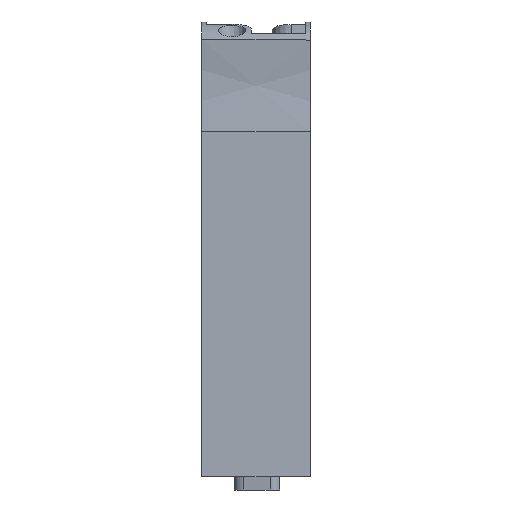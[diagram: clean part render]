
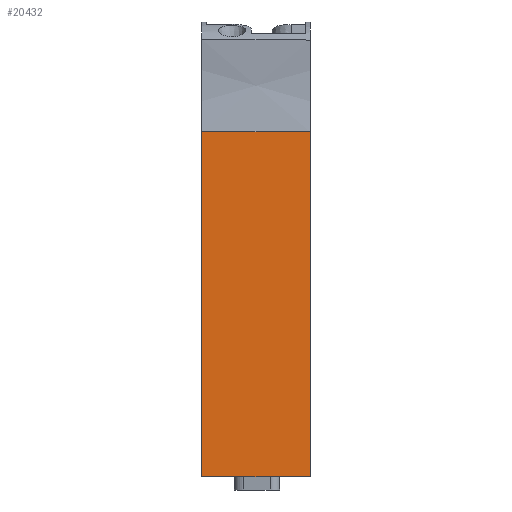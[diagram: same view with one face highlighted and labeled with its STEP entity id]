
A CAD part, front view. The second image highlights one B-rep face of the part: STEP entity #20432.
In plain terms, the highlighted planar face has unit normal (-0.009, -1, 0).
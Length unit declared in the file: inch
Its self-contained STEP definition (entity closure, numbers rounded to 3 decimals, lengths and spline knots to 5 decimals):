
#2085=DIRECTION('',(0.,0.,-1.));
#2086=VECTOR('',#2085,2.51253);
#2087=CARTESIAN_POINT('',(0.788,-2.06535,2.51253));
#2088=LINE('',#2087,#2086);
#4427=DIRECTION('',(1.,-0.009,0.));
#4428=VECTOR('',#4427,0.78803);
#4429=CARTESIAN_POINT('',(0.,-2.05847,0.));
#4430=LINE('',#4429,#4428);
#4803=DIRECTION('',(0.,0.,-1.));
#4804=VECTOR('',#4803,2.51197);
#4805=CARTESIAN_POINT('',(0.,-2.05847,2.51197));
#4806=LINE('',#4805,#4804);
#5027=CARTESIAN_POINT('',(0.,-2.05847,2.51197));
#5028=CARTESIAN_POINT('',(0.08773,-2.05924,
2.51203));
#5029=CARTESIAN_POINT('',(0.26309,-2.06077,
2.51216));
#5030=CARTESIAN_POINT('',(0.52575,-2.06306,
2.51234));
#5031=CARTESIAN_POINT('',(0.70062,-2.06459,
2.51247));
#5032=CARTESIAN_POINT('',(0.788,-2.06535,2.51253));
#12681=CARTESIAN_POINT('',(0.,-2.05847,0.));
#12682=CARTESIAN_POINT('',(0.788,-2.06535,0.));
#12683=VERTEX_POINT('',#12681);
#12684=VERTEX_POINT('',#12682);
#12691=VERTEX_POINT('',#5027);
#12692=VERTEX_POINT('',#5032);
#20421=CARTESIAN_POINT('',(0.748,-2.065,4.37859));
#20422=DIRECTION('',(-0.009,-1.,0.));
#20423=DIRECTION('',(0.,0.,-1.));
#20424=AXIS2_PLACEMENT_3D('',#20421,#20422,#20423);
#20425=PLANE('',#20424);
#20426=ORIENTED_EDGE('',*,*,#20416,.T.);
#20427=ORIENTED_EDGE('',*,*,#17904,.T.);
#20428=ORIENTED_EDGE('',*,*,#19897,.F.);
#20429=ORIENTED_EDGE('',*,*,#20288,.F.);
#20430=EDGE_LOOP('',(#20426,#20427,#20428,#20429));
#20431=FACE_OUTER_BOUND('',#20430,.F.);
#20432=ADVANCED_FACE('',(#20431),#20425,.T.);
#5033=B_SPLINE_CURVE_WITH_KNOTS('',3,(#5027,#5028,#5029,#5030,#5031,#5032),
.UNSPECIFIED.,.F.,.F.,(4,1,1,4),(0.,0.33333,0.66667,1.),
.UNSPECIFIED.);
#17904=EDGE_CURVE('',#12692,#12684,#2088,.T.);
#19897=EDGE_CURVE('',#12683,#12684,#4430,.T.);
#20288=EDGE_CURVE('',#12691,#12683,#4806,.T.);
#20416=EDGE_CURVE('',#12691,#12692,#5033,.T.);
